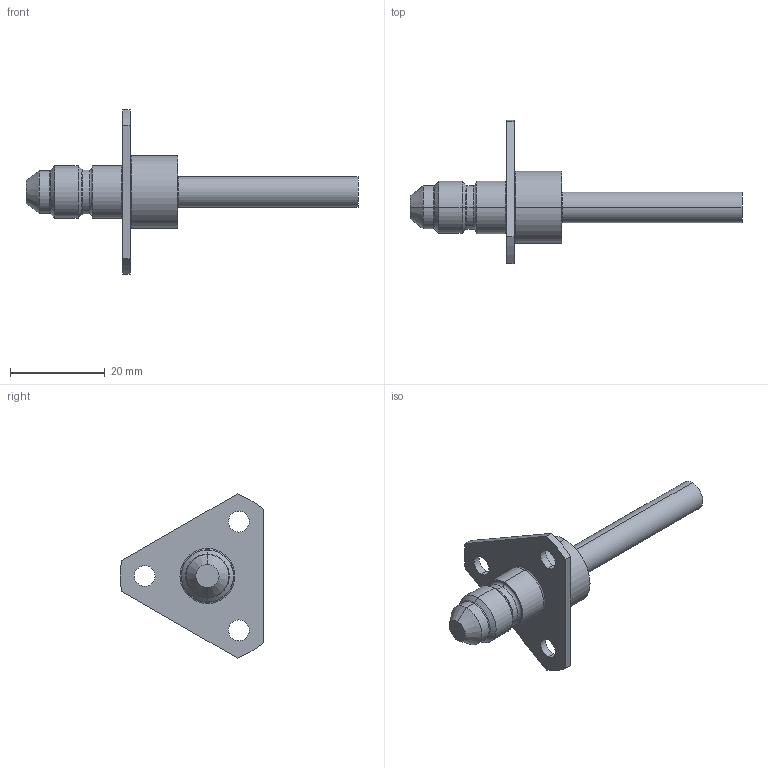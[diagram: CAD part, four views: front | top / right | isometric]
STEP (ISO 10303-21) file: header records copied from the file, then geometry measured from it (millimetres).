
FILE_DESCRIPTION (( 'STEP AP214' ), '1' );
FILE_NAME ('3DCSLX0514700B FITTING.STEP', '2024-09-30T19:03:31', ( '' ), ( '' ), 'SwSTEP 2.0', 'SolidWorks 2023', '' );
FILE_SCHEMA (( 'AUTOMOTIVE_DESIGN' ));
Length unit declared in the file: inch
Products named in the file (1): 3DCSLX0514700B FITTING
Bounding box: 70.1 x 30.25 x 34.63 mm (x, y, z)
Volume: 5675.9 mm3; surface area: 3355.1 mm2
Topology: 1 solids, 1 shells, 48 faces, 104 edges, 62 vertices
Faces by surface type: cylinder 21, torus 12, plane 9, cone 6
Entity records: 1359 total; most frequent: DIRECTION 270, CARTESIAN_POINT 215, ORIENTED_EDGE 208, AXIS2_PLACEMENT_3D 117, EDGE_CURVE 104, CIRCLE 68, VERTEX_POINT 62, EDGE_LOOP 58
